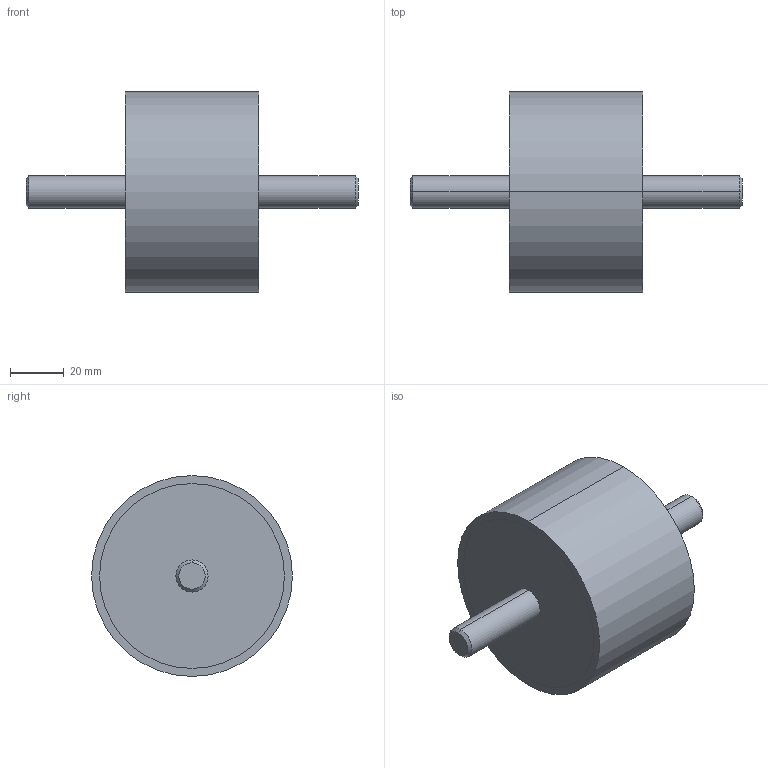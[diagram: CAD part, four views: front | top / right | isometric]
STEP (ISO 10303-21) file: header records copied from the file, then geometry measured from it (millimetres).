
FILE_DESCRIPTION (( 'STEP AP214' ), '1' );
FILE_NAME ('351-75-50-M12-SS-55.step', '2025-07-23T09:54:32', ( '' ), ( '' ), 'SwSTEP 2.0', 'SolidWorks 2022', '' );
FILE_SCHEMA (( 'AUTOMOTIVE_DESIGN' ));
Length unit declared in the file: millimetre
Products named in the file (1): 351-75-50-M12-SS-55
Bounding box: 124 x 75 x 75 mm (x, y, z)
Volume: 229147.1 mm3; surface area: 23359.8 mm2
Topology: 1 solids, 1 shells, 20 faces, 38 edges, 24 vertices
Faces by surface type: cylinder 10, plane 6, cone 4
Entity records: 636 total; most frequent: DIRECTION 104, CARTESIAN_POINT 83, ORIENTED_EDGE 76, AXIS2_PLACEMENT_3D 45, EDGE_CURVE 38, EDGE_LOOP 24, CIRCLE 24, VERTEX_POINT 24
